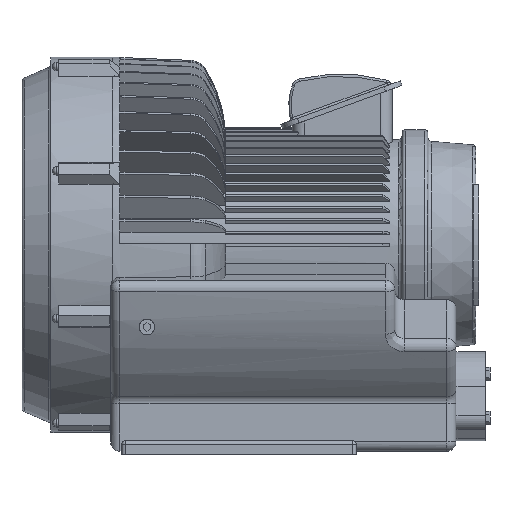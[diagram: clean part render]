
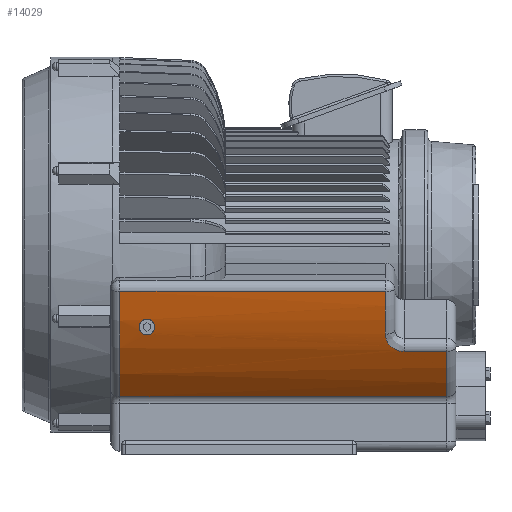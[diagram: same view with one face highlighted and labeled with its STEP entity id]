
A CAD part, left-side view. The second image highlights one B-rep face of the part: STEP entity #14029.
In plain terms, the highlighted cylindrical face has radius 181 mm (diameter 362 mm), a partial arc.
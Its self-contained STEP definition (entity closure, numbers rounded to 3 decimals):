
#252=FACE_BOUND('',#2076,.T.);
#1005=B_SPLINE_CURVE_WITH_KNOTS('',3,(#21059,#21060,#21061,#21062,#21063,
#21064,#21065,#21066,#21067,#21068,#21069,#21070,#21071,#21072,#21073,#21074,
#21075,#21076,#21077,#21078,#21079,#21080),.UNSPECIFIED.,.F.,.F.,(4,2,2,
2,2,2,2,2,2,2,4),(0.813,1.041,1.31,1.579,
1.827,2.074,2.322,2.569,2.838,
3.107,3.335),.UNSPECIFIED.);
#1006=B_SPLINE_CURVE_WITH_KNOTS('',3,(#21128,#21129,#21130,#21131,#21132,
#21133,#21134),.UNSPECIFIED.,.F.,.F.,(4,1,1,1,4),(-2.514,-1.795,
-1.077,-0.718,0.),.UNSPECIFIED.);
#1007=B_SPLINE_CURVE_WITH_KNOTS('',3,(#21140,#21141,#21142,#21143,#21144,
#21145,#21146,#21147,#21148,#21149,#21150,#21151,#21152,#21153,#21154,#21155,
#21156,#21157),.UNSPECIFIED.,.F.,.F.,(4,2,2,2,2,2,2,2,4),(1.261,
1.306,1.578,1.826,2.074,2.322,
2.57,2.842,2.887),.UNSPECIFIED.);
#1248=FACE_OUTER_BOUND('',#2075,.T.);
#2075=EDGE_LOOP('',(#10032,#10033,#10034,#10035,#10036,#10037,#10038));
#2076=EDGE_LOOP('',(#10039,#10040));
#3116=LINE('',#21122,#4387);
#3117=LINE('',#21126,#4388);
#3118=LINE('',#21138,#4389);
#4387=VECTOR('',#16513,278.5);
#4388=VECTOR('',#16516,36.2);
#4389=VECTOR('',#16519,226.3);
#5506=CIRCLE('',#14881,181.);
#5507=CIRCLE('',#14882,181.);
#5508=CIRCLE('',#14883,181.);
#6207=VERTEX_POINT('',#21057);
#6208=VERTEX_POINT('',#21058);
#6221=VERTEX_POINT('',#21120);
#6222=VERTEX_POINT('',#21121);
#6223=VERTEX_POINT('',#21123);
#6224=VERTEX_POINT('',#21125);
#6225=VERTEX_POINT('',#21127);
#6226=VERTEX_POINT('',#21135);
#6227=VERTEX_POINT('',#21137);
#7676=EDGE_CURVE('',#6207,#6208,#1005,.T.);
#7696=EDGE_CURVE('',#6221,#6222,#3116,.T.);
#7697=EDGE_CURVE('',#6223,#6221,#5506,.T.);
#7698=EDGE_CURVE('',#6224,#6223,#3117,.T.);
#7699=EDGE_CURVE('',#6225,#6224,#1006,.T.);
#7700=EDGE_CURVE('',#6226,#6225,#5507,.T.);
#7701=EDGE_CURVE('',#6227,#6226,#3118,.T.);
#7702=EDGE_CURVE('',#6222,#6227,#5508,.T.);
#7703=EDGE_CURVE('',#6208,#6207,#1007,.T.);
#10032=ORIENTED_EDGE('',*,*,#7696,.F.);
#10033=ORIENTED_EDGE('',*,*,#7697,.F.);
#10034=ORIENTED_EDGE('',*,*,#7698,.F.);
#10035=ORIENTED_EDGE('',*,*,#7699,.F.);
#10036=ORIENTED_EDGE('',*,*,#7700,.F.);
#10037=ORIENTED_EDGE('',*,*,#7701,.F.);
#10038=ORIENTED_EDGE('',*,*,#7702,.F.);
#10039=ORIENTED_EDGE('',*,*,#7676,.T.);
#10040=ORIENTED_EDGE('',*,*,#7703,.T.);
#13802=CYLINDRICAL_SURFACE('',#14880,181.);
#14029=ADVANCED_FACE('',(#1248,#252),#13802,.T.);
#14880=AXIS2_PLACEMENT_3D('',#21119,#16511,#16512);
#14881=AXIS2_PLACEMENT_3D('',#21124,#16514,#16515);
#14882=AXIS2_PLACEMENT_3D('',#21136,#16517,#16518);
#14883=AXIS2_PLACEMENT_3D('',#21139,#16520,#16521);
#16511=DIRECTION('center_axis',(0.,1.,0.));
#16512=DIRECTION('ref_axis',(-0.685,0.,-0.728));
#16513=DIRECTION('',(0.,1.,0.));
#16514=DIRECTION('center_axis',(0.,-1.,0.));
#16515=DIRECTION('ref_axis',(-0.797,0.,-0.604));
#16516=DIRECTION('',(0.,-1.,0.));
#16517=DIRECTION('center_axis',(0.,-1.,0.));
#16518=DIRECTION('ref_axis',(-0.947,0.,-0.321));
#16519=DIRECTION('',(0.,-1.,0.));
#16520=DIRECTION('center_axis',(0.,1.,0.));
#16521=DIRECTION('ref_axis',(-0.88,0.,-0.475));
#21057=CARTESIAN_POINT('',(-166.,100.741,106.854));
#21058=CARTESIAN_POINT('',(-166.,88.259,106.854));
#21059=CARTESIAN_POINT('Ctrl Pts',(-166.,100.741,106.854));
#21060=CARTESIAN_POINT('Ctrl Pts',(-166.307,100.984,107.56));
#21061=CARTESIAN_POINT('Ctrl Pts',(-166.623,101.1,108.3));
#21062=CARTESIAN_POINT('Ctrl Pts',(-167.263,101.1,109.827));
#21063=CARTESIAN_POINT('Ctrl Pts',(-167.628,100.935,110.717));
#21064=CARTESIAN_POINT('Ctrl Pts',(-168.291,100.246,112.368));
#21065=CARTESIAN_POINT('Ctrl Pts',(-168.59,99.721,113.13));
#21066=CARTESIAN_POINT('Ctrl Pts',(-169.038,98.529,114.288));
#21067=CARTESIAN_POINT('Ctrl Pts',(-169.224,97.803,114.779));
#21068=CARTESIAN_POINT('Ctrl Pts',(-169.472,96.201,115.436));
#21069=CARTESIAN_POINT('Ctrl Pts',(-169.533,95.325,115.6));
#21070=CARTESIAN_POINT('Ctrl Pts',(-169.533,93.675,115.6));
#21071=CARTESIAN_POINT('Ctrl Pts',(-169.472,92.799,115.436));
#21072=CARTESIAN_POINT('Ctrl Pts',(-169.224,91.197,114.779));
#21073=CARTESIAN_POINT('Ctrl Pts',(-169.038,90.471,114.288));
#21074=CARTESIAN_POINT('Ctrl Pts',(-168.59,89.279,113.13));
#21075=CARTESIAN_POINT('Ctrl Pts',(-168.291,88.754,112.368));
#21076=CARTESIAN_POINT('Ctrl Pts',(-167.628,88.065,110.717));
#21077=CARTESIAN_POINT('Ctrl Pts',(-167.263,87.9,109.827));
#21078=CARTESIAN_POINT('Ctrl Pts',(-166.623,87.9,108.3));
#21079=CARTESIAN_POINT('Ctrl Pts',(-166.307,88.016,107.56));
#21080=CARTESIAN_POINT('Ctrl Pts',(-166.,88.259,106.854));
#21119=CARTESIAN_POINT('Origin',(0.,116.,179.));
#21120=CARTESIAN_POINT('',(-126.413,-161.,49.459));
#21121=CARTESIAN_POINT('',(-126.413,117.5,49.459));
#21122=CARTESIAN_POINT('',(-126.413,116.,49.459));
#21123=CARTESIAN_POINT('',(-156.512,-161.,88.089));
#21124=CARTESIAN_POINT('Origin',(0.,-161.,179.));
#21125=CARTESIAN_POINT('',(-156.512,-124.8,88.089));
#21126=CARTESIAN_POINT('',(-156.512,116.,88.089));
#21127=CARTESIAN_POINT('',(-164.242,-108.8,102.937));
#21128=CARTESIAN_POINT('Ctrl Pts',(-164.242,-108.8,102.937));
#21129=CARTESIAN_POINT('Ctrl Pts',(-163.189,-108.8,100.664));
#21130=CARTESIAN_POINT('Ctrl Pts',(-160.983,-109.892,
96.166));
#21131=CARTESIAN_POINT('Ctrl Pts',(-158.597,-113.719,
91.753));
#21132=CARTESIAN_POINT('Ctrl Pts',(-156.949,-118.819,
88.832));
#21133=CARTESIAN_POINT('Ctrl Pts',(-156.512,-122.406,
88.089));
#21134=CARTESIAN_POINT('Ctrl Pts',(-156.512,-124.8,88.089));
#21135=CARTESIAN_POINT('',(-176.606,-108.8,139.361));
#21136=CARTESIAN_POINT('Origin',(0.,-108.8,179.));
#21137=CARTESIAN_POINT('',(-176.606,117.5,139.361));
#21138=CARTESIAN_POINT('',(-176.606,116.,139.361));
#21139=CARTESIAN_POINT('Origin',(0.,117.5,179.));
#21140=CARTESIAN_POINT('Ctrl Pts',(-166.,88.259,106.854));
#21141=CARTESIAN_POINT('Ctrl Pts',(-165.939,88.306,106.715));
#21142=CARTESIAN_POINT('Ctrl Pts',(-165.879,88.359,106.577));
#21143=CARTESIAN_POINT('Ctrl Pts',(-165.457,88.765,105.613));
#21144=CARTESIAN_POINT('Ctrl Pts',(-165.118,89.292,104.854));
#21145=CARTESIAN_POINT('Ctrl Pts',(-164.596,90.483,103.705));
#21146=CARTESIAN_POINT('Ctrl Pts',(-164.372,91.204,103.218));
#21147=CARTESIAN_POINT('Ctrl Pts',(-164.07,92.799,102.565));
#21148=CARTESIAN_POINT('Ctrl Pts',(-163.992,93.674,102.4));
#21149=CARTESIAN_POINT('Ctrl Pts',(-163.992,95.326,102.4));
#21150=CARTESIAN_POINT('Ctrl Pts',(-164.07,96.201,102.565));
#21151=CARTESIAN_POINT('Ctrl Pts',(-164.372,97.796,103.218));
#21152=CARTESIAN_POINT('Ctrl Pts',(-164.596,98.517,103.705));
#21153=CARTESIAN_POINT('Ctrl Pts',(-165.118,99.708,104.854));
#21154=CARTESIAN_POINT('Ctrl Pts',(-165.457,100.235,105.613));
#21155=CARTESIAN_POINT('Ctrl Pts',(-165.879,100.641,106.577));
#21156=CARTESIAN_POINT('Ctrl Pts',(-165.939,100.694,106.715));
#21157=CARTESIAN_POINT('Ctrl Pts',(-166.,100.741,106.854));
